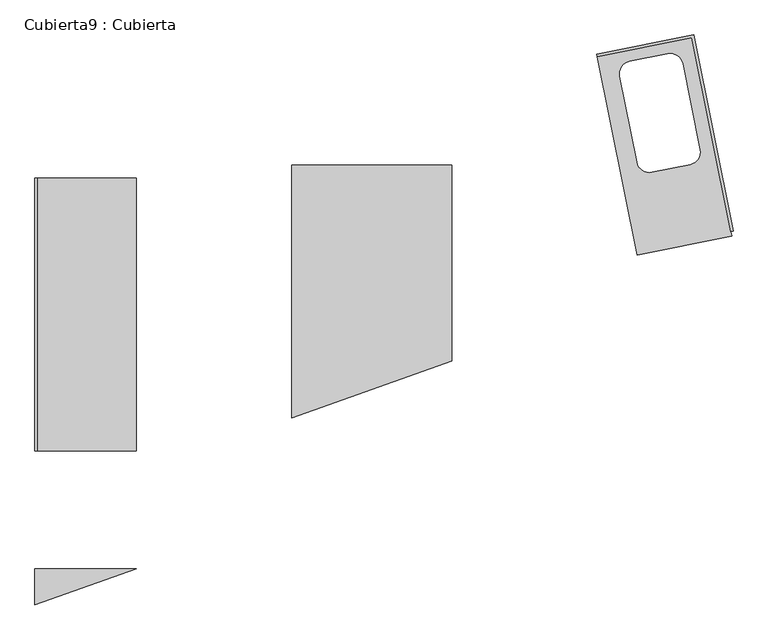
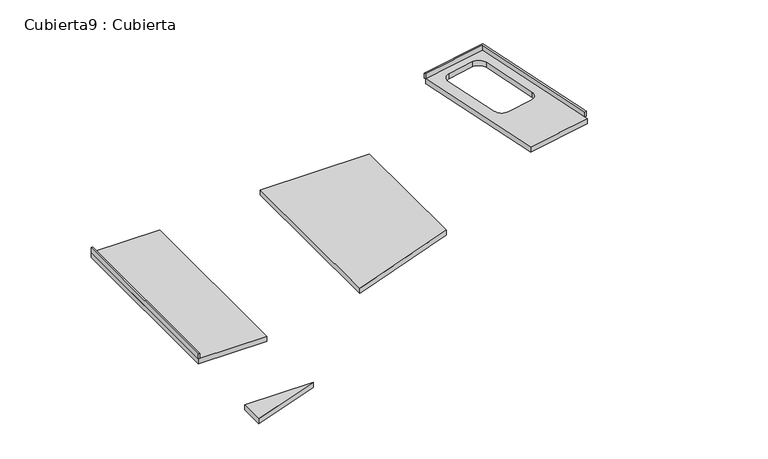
"""IFC4 building model written with IfcOpenShell, lengths in millimetres: furniture geometry, Cubierta9 : Cubierta."""

import ifcopenshell
import ifcopenshell.guid

model = None  # the IFC model being written
_history = None  # IfcOwnerHistory: only IFC2X3 demands one
_inside = {}  # id of a spatial element -> (the spatial element, [elements in it])
_under = {}  # id of a project, library or spatial element -> (it, [spatial elements below it])
_declared = {}  # id of a project -> (the project, [libraries it declares])
_typed = {}  # id of a type object -> (the type object, [elements of that type])
_made_of = {}  # id of a material, layer set ... -> (it, [elements and type objects made of it])


def new_model(schema):
    """Start an empty IFC model of exactly this schema.

    Asked for "IFC4X3", IfcOpenShell would pick the latest addendum, in which some entities
    have other attributes; the version numbers below select the first issue.
    IFC2X3 requires an IfcOwnerHistory on every rooted entity: one is made here for all.
    """
    global model, _history
    if schema == "IFC4X3":
        model = ifcopenshell.file(schema_version=(4, 3, 0, 0))
    else:
        model = ifcopenshell.file(schema=schema)
    _inside.clear()
    _under.clear()
    _declared.clear()
    _typed.clear()
    _made_of.clear()
    _history = None
    if model.schema == "IFC2X3":
        org = make("IfcOrganization", Name="unknown")
        user = make(
            "IfcPersonAndOrganization",
            ThePerson=make("IfcPerson", FamilyName="unknown"),
            TheOrganization=org,
        )
        app = make(
            "IfcApplication",
            ApplicationDeveloper=org,
            Version="unknown",
            ApplicationFullName="unknown",
            ApplicationIdentifier="unknown",
        )
        _history = make(
            "IfcOwnerHistory",
            OwningUser=user,
            OwningApplication=app,
            ChangeAction="ADDED",
            CreationDate=0,
        )
    return model


def make(cls, **values):
    """One entity of the class cls with the attributes given. An attribute that is None is left unset."""
    return model.create_entity(
        cls, **{name: value for name, value in values.items() if value is not None}
    )


def rooted(cls, **values):
    """An entity with a GlobalId (a new one), such as an element, a storey or a relation."""
    return make(cls, GlobalId=ifcopenshell.guid.new(), OwnerHistory=_history, **values)


def si_unit(unit_type, name, prefix=None):
    """IfcSIUnit, for example si_unit("LENGTHUNIT", "METRE", prefix="MILLI")."""
    return make("IfcSIUnit", UnitType=unit_type, Prefix=prefix, Name=name)


def assignment(units):
    """IfcUnitAssignment: the units of a project."""
    return None if units is None else make("IfcUnitAssignment", Units=units)


def point(xyz):
    """IfcCartesianPoint."""
    return None if xyz is None else make("IfcCartesianPoint", Coordinates=xyz)


def direction(xyz):
    """IfcDirection."""
    return None if xyz is None else make("IfcDirection", DirectionRatios=xyz)


def frame(location, z_axis=None, x_axis=None):
    """IfcAxis2Placement3D, a coordinate frame: its origin and axes. An axis left out is left unset."""
    return make(
        "IfcAxis2Placement3D",
        Location=point(location),
        Axis=direction(z_axis),
        RefDirection=direction(x_axis),
    )


def origin():
    """The frame at (0, 0, 0) with its axes left unset."""
    return frame((0.0, 0.0, 0.0))


def place(relative_to, where):
    """IfcLocalPlacement: puts the frame where relative to a parent placement (None: the world)."""
    return make(
        "IfcLocalPlacement", PlacementRelTo=relative_to, RelativePlacement=where
    )


def context(
    kind, dimensions, precision=None, world=None, true_north=None, identifier=None
):
    """IfcGeometricRepresentationContext, for example the 3D "Model" context."""
    return make(
        "IfcGeometricRepresentationContext",
        ContextIdentifier=identifier,
        ContextType=kind,
        CoordinateSpaceDimension=dimensions,
        Precision=precision,
        WorldCoordinateSystem=world,
        TrueNorth=true_north,
    )


def project(units=None, contexts=None):
    """IfcProject with its units and contexts."""
    return rooted(
        "IfcProject",
        Name="project",
        RepresentationContexts=contexts,
        UnitsInContext=assignment(units),
    )


def spatial(cls, under=None, at=None, **own):
    """A site, building, storey or space (cls), placed at a placement, below another one or the project."""
    s = rooted(cls, ObjectPlacement=at, **own)
    if under is not None:
        _under.setdefault(under.id(), (under, []))[1].append(s)
    return s


def polyline(points):
    """IfcPolyline through the points."""
    return make("IfcPolyline", Points=[point(p) for p in points])


def circle_curve(where, radius):
    """IfcCircle in the frame where."""
    return make("IfcCircle", Position=where, Radius=radius)


def outline(outer, holes=None, kind="AREA"):
    """IfcArbitraryClosedProfileDef: a profile drawn as a closed curve; with holes, ...WithVoids."""
    if holes is None:
        return make("IfcArbitraryClosedProfileDef", ProfileType=kind, OuterCurve=outer)
    return make(
        "IfcArbitraryProfileDefWithVoids",
        ProfileType=kind,
        OuterCurve=outer,
        InnerCurves=holes,
    )


def extrude(swept, where, along, depth):
    """IfcExtrudedAreaSolid: the profile swept, set in the frame where, extruded along a direction by depth."""
    return make(
        "IfcExtrudedAreaSolid",
        SweptArea=swept,
        Position=where,
        ExtrudedDirection=direction(along),
        Depth=depth,
    )


def faces_of(points, faces, orient=None, outer=None):
    """IfcFace entities. A face is a list of loops; a loop is a list of indices into points, from 0.

    orient and outer hold one flag for each loop. By default every Orientation is true, the
    first loop of a face is its IfcFaceOuterBound and the others are IfcFaceBound.
    """
    made = []
    for i, loops in enumerate(faces):
        bounds = []
        for j, loop in enumerate(loops):
            is_outer = j == 0 if outer is None else outer[i][j]
            bounds.append(
                make(
                    "IfcFaceOuterBound" if is_outer else "IfcFaceBound",
                    Bound=make("IfcPolyLoop", Polygon=[points[k] for k in loop]),
                    Orientation=True if orient is None else orient[i][j],
                )
            )
        made.append(make("IfcFace", Bounds=bounds))
    return made


def faceted_brep(points, faces, orient=None, outer=None, voids=None):
    """IfcFacetedBrep: a solid bounded by flat faces; with voids (closed shells), ...WithVoids."""
    shared = [point(p) for p in points]
    hull = make("IfcClosedShell", CfsFaces=faces_of(shared, faces, orient, outer))
    if voids is None:
        return make("IfcFacetedBrep", Outer=hull)
    return make(
        "IfcFacetedBrepWithVoids",
        Outer=hull,
        Voids=[
            make(cls, CfsFaces=faces_of(shared, fs, o, b)) for cls, fs, o, b in voids
        ],
    )


def shape(context_of_items, identifier, shape_type, items):
    """IfcShapeRepresentation: the items that make up one representation, for example the "Body"."""
    return make(
        "IfcShapeRepresentation",
        ContextOfItems=context_of_items,
        RepresentationIdentifier=identifier,
        RepresentationType=shape_type,
        Items=items,
    )


def source(mapping_origin, context_of_items, identifier, shape_type, items):
    """IfcRepresentationMap: a shape defined once, which mapped items show again and again."""
    return make(
        "IfcRepresentationMap",
        MappingOrigin=mapping_origin,
        MappedRepresentation=shape(context_of_items, identifier, shape_type, items),
    )


def transform(
    local_origin,
    x_axis=None,
    y_axis=None,
    z_axis=None,
    scale=None,
    scale2=None,
    scale3=None,
    uniform=True,
):
    """IfcCartesianTransformationOperator3D, or its non-uniform kind. x_axis, y_axis, z_axis: its Axis1, 2, 3."""
    if uniform:
        return make(
            "IfcCartesianTransformationOperator3D",
            Axis1=direction(x_axis),
            Axis2=direction(y_axis),
            LocalOrigin=point(local_origin),
            Scale=scale,
            Axis3=direction(z_axis),
        )
    return make(
        "IfcCartesianTransformationOperator3DnonUniform",
        Axis1=direction(x_axis),
        Axis2=direction(y_axis),
        LocalOrigin=point(local_origin),
        Scale=scale,
        Axis3=direction(z_axis),
        Scale2=scale2,
        Scale3=scale3,
    )


def mapped(mapping_source, mapping_target):
    """IfcMappedItem: shows the shape of a source again, moved by a transform."""
    return make(
        "IfcMappedItem", MappingSource=mapping_source, MappingTarget=mapping_target
    )


def made_of(thing, what):
    """Note that an element or type object is made of a material, layer set ...; save() writes the relation."""
    if what is not None:
        _made_of.setdefault(what.id(), (what, []))[1].append(thing)
    return thing


def element(
    cls,
    number,
    at=None,
    inside=None,
    cuts=None,
    type_object=None,
    material=None,
    context=None,
    identifier="Body",
    shape_type=None,
    held_by="IfcProductDefinitionShape",
    body=None,
    shapes=None,
    **own,
):
    """One element of the class cls, such as IfcWall. Its Tag is "e" and its number.

    at: its placement. inside: the storey or other place that contains it. cuts: it is an
    opening in that element (IfcRelVoidsElement). A single representation is given by context,
    identifier, shape_type and body (its items); several are given by shapes. held_by: the class
    of the entity that holds the representations. save() writes the other relations.
    """
    e = rooted(cls, Tag="e%d" % number, ObjectPlacement=at, **own)
    if body is not None:
        shapes = [shape(context, identifier, shape_type, body)]
    if shapes is not None:
        e.Representation = make(held_by, Representations=shapes)
    if inside is not None:
        _inside.setdefault(inside.id(), (inside, []))[1].append(e)
    if cuts is not None:
        rooted(
            "IfcRelVoidsElement", RelatingBuildingElement=cuts, RelatedOpeningElement=e
        )
    if type_object is not None:
        _typed.setdefault(type_object.id(), (type_object, []))[1].append(e)
    return made_of(e, material)


def aggregate(whole, parts):
    """IfcRelAggregates: a whole, such as a stair, and the parts it consists of."""
    return rooted("IfcRelAggregates", RelatingObject=whole, RelatedObjects=parts)


def save(model, path):
    """Write the relations noted so far, then the file.

    IfcRelAggregates (storeys below a building ...), IfcRelContainedInSpatialStructure (elements
    in a storey), IfcRelDefinesByType, IfcRelAssociatesMaterial and IfcRelDeclares: one each for
    every whole, place, type object, material and project.
    """
    for whole, parts in _under.values():
        aggregate(whole, parts)
    for where, things in _inside.values():
        rooted(
            "IfcRelContainedInSpatialStructure",
            RelatedElements=things,
            RelatingStructure=where,
        )
    for kind, things in _typed.values():
        rooted("IfcRelDefinesByType", RelatedObjects=things, RelatingType=kind)
    for what, things in _made_of.values():
        rooted("IfcRelAssociatesMaterial", RelatedObjects=things, RelatingMaterial=what)
    for by, libraries in _declared.values():
        rooted("IfcRelDeclares", RelatingContext=by, RelatedDefinitions=libraries)
    model.write(path)


def plane_surface(at):
    """IfcPlane: the flat surface through the origin of the frame at, square to its z axis."""
    return make("IfcPlane", Position=at)


def revolved_surface(curve, axis_point, axis_direction):
    """IfcSurfaceOfRevolution: the curve turned about the line through axis_point along axis_direction."""
    return make(
        "IfcSurfaceOfRevolution",
        SweptCurve=make("IfcArbitraryOpenProfileDef", ProfileType="CURVE", Curve=curve),
        AxisPosition=make("IfcAxis1Placement", Location=point(axis_point), Axis=direction(axis_direction)),
    )


def advanced_brep(points, edges, surfaces, faces):
    """IfcAdvancedBrep: a solid bounded by faces that lie on surfaces and meet in shared edges.

    An edge is (start, end): straight between two places in points (the first is 0);
    or (start, end, curve); or (start, end, curve, False) where it runs against its curve.
    A face is (place in surfaces, loops), or (place, loops, False) where it looks against
    its surface's normal. A loop lists edges by number (the first is 1), with a minus sign
    where the edge is run from its end to its start. The first loop is the outer one.
    """
    corners = [point(p) for p in points]
    vertices = [make("IfcVertexPoint", VertexGeometry=c) for c in corners]
    made = []
    for start, end, *more in edges:
        made.append(
            make(
                "IfcEdgeCurve",
                EdgeStart=vertices[start],
                EdgeEnd=vertices[end],
                EdgeGeometry=more[0] if more else make("IfcPolyline", Points=[corners[start], corners[end]]),
                SameSense=more[1] if len(more) > 1 else True,
            )
        )
    hull = []
    for where, loops, *sense in faces:
        bounds = []
        for j, loop in enumerate(loops):
            ring = [make("IfcOrientedEdge", EdgeElement=made[abs(k) - 1], Orientation=k > 0) for k in loop]
            bounds.append(
                make(
                    "IfcFaceOuterBound" if j == 0 else "IfcFaceBound",
                    Bound=make("IfcEdgeLoop", EdgeList=ring),
                    Orientation=True,
                )
            )
        hull.append(make("IfcAdvancedFace", Bounds=bounds, FaceSurface=surfaces[where], SameSense=sense[0] if sense else True))
    return make("IfcAdvancedBrep", Outer=make("IfcClosedShell", CfsFaces=hull))


def cubierta9_cubierta_ee915b3e(model_context):
    return source(origin(), model_context, "Body", "SolidModel", [
        extrude(outline(polyline([(49599.5059119, 27748.0993789), (49584.5059119, 27748.0993789), (49584.5059119, 29504.0104696), (49599.5059119, 29504.0104696), (49599.5059119, 27748.0993789)])), frame((0.0, 0.0, 12900.0), z_axis=(0.0, 0.0, 1.0), x_axis=(1.0, 0.0, 0.0)), (0.0, 0.0, 1.0), 50.0),
        faceted_brep([(49584.5059119, 29504.0104696, 12900.0), (49584.5059119, 27748.0993789, 12900.0), (50234.5059119, 27748.0993789, 12900.0), (50234.5059119, 29504.0104696, 12900.0), (49584.5059119, 29504.0104696, 12850.0), (50234.5059119, 29504.0104696, 12850.0), (50234.5059119, 27748.0993789, 12850.0), (49584.5059119, 27748.0993789, 12850.0)], [[[0, 1, 2, 3]], [[4, 5, 6, 7]], [[1, 0, 4, 7]], [[3, 2, 6, 5]], [[0, 3, 5, 4]], [[2, 1, 7, 6]]]),
        faceted_brep([(52265.6897419, 29586.3567503, 12900.0), (51234.5059119, 29586.3567503, 12900.0), (51234.5059119, 27958.7929155, 12900.0), (52265.6897419, 28326.2589446, 12900.0), (52265.6897419, 29586.3567503, 12850.0), (52265.6897419, 28326.2589446, 12850.0), (51234.5059119, 27958.7929155, 12850.0), (51234.5059119, 29586.3567503, 12850.0)], [[[0, 1, 2, 3]], [[4, 5, 6, 7]], [[1, 0, 4, 7]], [[2, 1, 7, 6]], [[3, 2, 6, 5]], [[0, 3, 5, 4]]]),
        advanced_brep(
        [(53456.359084, 29009.2054962, 12900.0), (54064.2853122, 29130.9663318, 12900.0), (54058.3936588, 29160.3821171, 12900.0), (53808.6723805, 30407.1879069, 12900.0), (53200.7461523, 30285.4270712, 12900.0), (53408.4418456, 30254.1061676, 12900.0), (53653.5733892, 30303.2032787, 12900.0), (53748.9034733, 30239.6881226, 12900.0), (53859.8629445, 29685.690834, 12900.0), (53796.3477884, 29590.3607498, 12900.0), (53551.2162448, 29541.2636387, 12900.0), (53455.8861606, 29604.7787948, 12900.0), (53344.9266894, 30158.7760834, 12900.0), (53456.359084, 29009.2054962, 12850.0), (53200.7461523, 30285.4270712, 12850.0), (53808.6723805, 30407.1879069, 12850.0), (54064.2853122, 29130.9663318, 12850.0), (53408.4418456, 30254.1061676, 12850.0), (53344.9266894, 30158.7760834, 12850.0), (53455.8861606, 29604.7787948, 12850.0), (53551.2162448, 29541.2636387, 12850.0), (53796.3477884, 29590.3607498, 12850.0), (53859.8629445, 29685.690834, 12850.0), (53748.9034733, 30239.6881226, 12850.0), (53653.5733892, 30303.2032787, 12850.0), (53200.7461523, 30285.4270712, 12950.0), (53197.8003257, 30300.1349639, 12950.0), (53197.8003257, 30300.1349639, 12900.0), (54058.3936588, 29160.3821171, 12950.0), (54073.1015514, 29163.3279437, 12900.0), (54073.1015514, 29163.3279437, 12950.0), (53808.6723805, 30407.1879069, 12900.0), (53808.6723805, 30407.1879069, 12950.0), (53820.4344465, 30424.8416261, 12950.0), (53820.4344465, 30424.8416261, 12900.0)],
        [
            (0, 1),
            (1, 2),
            (2, 3),
            (3, 4),
            (4, 0),
            (5, 6),
            (6, 7, circle_curve(frame((53669.4808532, 30223.7806586, 12900.0), z_axis=(0.0, 0.0, -1.0), x_axis=(0.19638844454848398, -0.9805261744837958, 0.0)), 81.0)),
            (7, 8),
            (8, 9, circle_curve(frame((53780.4403244, 29669.78337, 12900.0), z_axis=(0.0, 0.0, -1.0), x_axis=(0.19638844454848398, -0.9805261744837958, 0.0)), 81.0)),
            (9, 10),
            (10, 11, circle_curve(frame((53535.3087808, 29620.6862588, 12900.0), z_axis=(0.0, 0.0, -1.0), x_axis=(0.19638844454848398, -0.9805261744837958, 0.0)), 81.0)),
            (11, 12),
            (12, 5, circle_curve(frame((53424.3493096, 30174.6835474, 12900.0), z_axis=(0.0, 0.0, -1.0), x_axis=(0.19638844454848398, -0.9805261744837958, 0.0)), 81.0)),
            (13, 14),
            (14, 15),
            (15, 16),
            (16, 13),
            (17, 18, circle_curve(frame((53424.3493096, 30174.6835474, 12850.0), z_axis=(0.0, 0.0, 1.0), x_axis=(0.19638844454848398, -0.9805261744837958, 0.0)), 81.0)),
            (18, 19),
            (19, 20, circle_curve(frame((53535.3087808, 29620.6862588, 12850.0), z_axis=(0.0, 0.0, 1.0), x_axis=(0.19638844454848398, -0.9805261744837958, 0.0)), 81.0)),
            (20, 21),
            (21, 22, circle_curve(frame((53780.4403244, 29669.78337, 12850.0), z_axis=(0.0, 0.0, 1.0), x_axis=(0.19638844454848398, -0.9805261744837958, 0.0)), 81.0)),
            (22, 23),
            (23, 24, circle_curve(frame((53669.4808532, 30223.7806586, 12850.0), z_axis=(0.0, 0.0, 1.0), x_axis=(0.19638844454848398, -0.9805261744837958, 0.0)), 81.0)),
            (24, 17),
            (25, 26),
            (26, 27),
            (27, 4),
            (4, 25),
            (28, 2),
            (2, 29),
            (29, 30),
            (30, 28),
            (0, 13),
            (16, 1),
            (15, 31),
            (31, 2),
            (14, 4),
            (4, 31),
            (25, 32),
            (32, 28),
            (30, 33),
            (33, 26),
            (33, 34),
            (34, 27),
            (34, 29),
            (3, 32),
            (5, 17),
            (24, 6),
            (23, 7),
            (22, 8),
            (21, 9),
            (20, 10),
            (19, 11),
            (18, 12),
        ],
        [
            plane_surface(frame((49584.5059119, 28735.110761, 12900.0), z_axis=(0.0, 0.0, 1.0), x_axis=(0.0, -1.0, 0.0))),
            plane_surface(frame((49584.5059119, 28735.110761, 12850.0), z_axis=(0.0, 0.0, -1.0), x_axis=(0.0, 1.0, 0.0))),
            plane_surface(frame((53200.7461523, 30285.4270712, 12000.0), z_axis=(-0.9805261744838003, -0.19638844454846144, 0.0), x_axis=(0.0, 0.0, 1.0))),
            plane_surface(frame((54058.3936588, 29160.3821171, 12000.0), z_axis=(0.1963884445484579, -0.980526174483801, 0.0), x_axis=(0.0, 0.0, 1.0))),
            plane_surface(frame((53456.359084, 29009.2054962, 12900.0), z_axis=(0.19638844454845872, -0.9805261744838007, 0.0), x_axis=(0.0, 0.0, -1.0))),
            plane_surface(frame((54064.2853122, 29130.9663318, 12900.0), z_axis=(0.9805261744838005, 0.19638844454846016, 0.0), x_axis=(0.0, 0.0, -1.0))),
            plane_surface(frame((53808.6723805, 30407.1879069, 12900.0), z_axis=(-0.19638844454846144, 0.9805261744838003, 0.0), x_axis=(0.0, 0.0, -1.0))),
            plane_surface(frame((53200.7461523, 30285.4270712, 12900.0), z_axis=(-0.9805261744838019, -0.19638844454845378, 0.0), x_axis=(0.0, 0.0, -1.0))),
            plane_surface(frame((53200.7461523, 30285.4270712, 12950.0), z_axis=(0.0, 0.0, 1.0), x_axis=(0.9805261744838, 0.19638844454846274, 0.0))),
            plane_surface(frame((53197.8003257, 30300.1349639, 12950.0), z_axis=(-0.19638844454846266, 0.9805261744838, 0.0), x_axis=(0.9805261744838, 0.19638844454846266, 0.0))),
            plane_surface(frame((53197.8003257, 30300.1349639, 12900.0), z_axis=(0.0, 0.0, -1.0), x_axis=(0.9805261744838, 0.19638844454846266, 0.0))),
            plane_surface(frame((53200.7461523, 30285.4270712, 12900.0), z_axis=(0.19638844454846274, -0.9805261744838, 0.0), x_axis=(0.9805261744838, 0.19638844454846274, 0.0))),
            plane_surface(frame((53820.4344465, 30424.8416261, 12950.0), z_axis=(0.9805261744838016, 0.196388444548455, 0.0), x_axis=(0.196388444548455, -0.9805261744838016, 0.0))),
            plane_surface(frame((53808.6723805, 30407.1879069, 12900.0), z_axis=(-0.9805261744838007, -0.19638844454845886, 0.0), x_axis=(0.19638844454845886, -0.9805261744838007, 0.0))),
            plane_surface(frame((53408.4418456, 30254.1061676, 12900.0), z_axis=(0.19638844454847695, -0.9805261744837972, 0.0), x_axis=(0.0, 0.0, -1.0))),
            revolved_surface(polyline([(53685.38831720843, 30144.358038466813, 12850.0), (53685.38831720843, 30144.358038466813, 12900.0)]), (53669.4808532, 30223.7806586, 12000.0), (0.0, 0.0, -1.0)),
            plane_surface(frame((53748.9034733, 30239.6881226, 12900.0), z_axis=(-0.9805261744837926, -0.1963884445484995, 0.0), x_axis=(0.0, 0.0, -1.0))),
            revolved_surface(polyline([(53796.34778840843, 29590.360749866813, 12850.0), (53796.34778840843, 29590.360749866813, 12900.0)]), (53780.4403244, 29669.78337, 12000.0), (0.0, 0.0, -1.0)),
            plane_surface(frame((53796.3477884, 29590.3607498, 12900.0), z_axis=(-0.19638844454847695, 0.9805261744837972, 0.0), x_axis=(0.0, 0.0, -1.0))),
            revolved_surface(polyline([(53551.21624480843, 29541.263638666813, 12850.0), (53551.21624480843, 29541.263638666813, 12900.0)]), (53535.3087808, 29620.6862588, 12000.0), (0.0, 0.0, -1.0)),
            plane_surface(frame((53455.8861606, 29604.7787948, 12900.0), z_axis=(0.9805261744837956, 0.19638844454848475, 0.0), x_axis=(0.0, 0.0, -1.0))),
            revolved_surface(polyline([(53440.25677360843, 30095.260927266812, 12850.0), (53440.25677360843, 30095.260927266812, 12900.0)]), (53424.3493096, 30174.6835474, 12000.0), (0.0, 0.0, -1.0)),
        ],
        [
            (0, [[1, 2, 3, 4, 5], [6, 7, 8, 9, 10, 11, 12, 13]]),
            (1, [[14, 15, 16, 17], [18, 19, 20, 21, 22, 23, 24, 25]]),
            (2, [[26, 27, 28, 29]]),
            (3, [[30, 31, 32, 33]]),
            (4, [[-1, 34, -17, 35]]),
            (5, [[-16, 36, 37, -2, -35]]),
            (6, [[-15, 38, 39, -36]]),
            (7, [[-5, -38, -14, -34]]),
            (8, [[-26, 40, 41, -33, 42, 43]]),
            (9, [[-27, -43, 44, 45]]),
            (10, [[-28, -45, 46, -31, -37, -39]]),
            (11, [[-29, -4, 47, -40]]),
            (12, [[-32, -46, -44, -42]]),
            (13, [[-30, -41, -47, -3]]),
            (14, [[-6, 48, -25, 49]]),
            (15, [[-7, -49, -24, 50]]),
            (16, [[-8, -50, -23, 51]]),
            (17, [[-9, -51, -22, 52]]),
            (18, [[-10, -52, -21, 53]]),
            (19, [[-11, -53, -20, 54]]),
            (20, [[-12, -54, -19, 55]]),
            (21, [[-13, -55, -18, -48]]),
        ],
    ),
        faceted_brep([(50234.5059119, 26989.5594822, 12900.0), (49584.5059119, 26989.5594822, 12900.0), (49584.5059119, 26757.929668, 12900.0), (50234.5059119, 26989.5594822, 12850.0), (49584.5059119, 26757.929668, 12850.0), (49584.5059119, 26989.5594822, 12850.0)], [[[0, 1, 2]], [[3, 4, 5]], [[0, 2, 4, 3]], [[1, 0, 3, 5]], [[2, 1, 5, 4]]]),
    ])


if __name__ == "__main__":
    model = new_model("IFC4")
    model_context = context("Model", 3, world=origin())
    ifc_project = project(units=[si_unit("LENGTHUNIT", "METRE", prefix="MILLI")], contexts=[model_context])
    site = spatial("IfcSite", under=ifc_project)
    building = spatial("IfcBuilding", under=site)
    placement = place(None, origin())
    cubierta9_cubierta_shape = cubierta9_cubierta_ee915b3e(model_context)
    element("IfcFurniture", 1, ObjectType="Cubierta9 : Cubierta", at=placement, inside=building, context=model_context, shape_type="MappedRepresentation", body=[
        mapped(cubierta9_cubierta_shape, transform((0.0, 0.0, 0.0), x_axis=(1.0, 0.0, 0.0), y_axis=(0.0, 1.0, 0.0), z_axis=(0.0, 0.0, 1.0))),
    ])
    save(model, "model.ifc")
